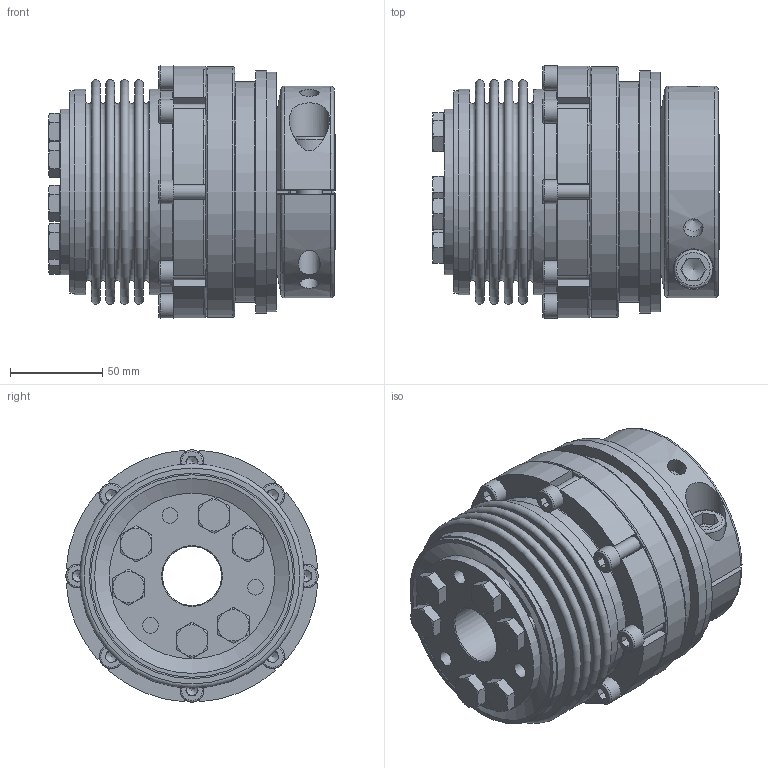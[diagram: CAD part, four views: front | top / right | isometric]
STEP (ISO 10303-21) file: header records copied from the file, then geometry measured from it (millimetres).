
FILE_DESCRIPTION( ( 'Unknown' ), '1' );
FILE_NAME( 'F:/JAKOB-STEP+IGES-Dateien/STEP-Dateien/SKB-KS/SKB-KS 800.stp', 'Unknown', ( 'Unknown' ), ( 'Unknown' ), 'PSStep 10.1', 'Unknown', ' ' );
FILE_SCHEMA( ( 'AUTOMOTIVE_DESIGN { 1 0 10303 214 1 1 1 1 }' ) );
Length unit declared in the file: millimetre
Products named in the file (1): kt100627
Bounding box: 155.9 x 136.98 x 136.98 mm (x, y, z)
Volume: 1146242.1 mm3; surface area: 322227.4 mm2
Topology: 1 solids, 4 shells, 644 faces, 1740 edges, 1112 vertices
Faces by surface type: plane 328, cylinder 130, torus 95, cone 75, sphere 16
Full cylindrical faces by diameter (mm): 1.5 x1, 2.5 x2, 6.8 x9, 8 x8, 8.5 x9, 10 x6, 10.5 x3, 11 x6, 12 x1, 13 x8, 14 x1, 14.5 x1, 15.5 x6, 21 x1, 22 x1, 32 x1, 40 x1, 52 x1, 55.5 x1, 67 x1, 69.8 x1, 70 x2, 78 x1, 80 x1, 80.1 x1, 82.8 x2, 88 x1, 88.976 x1, 90 x4, 97.6 x2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
Entity records: 25864 total; most frequent: CARTESIAN_POINT 6060, DIRECTION 3030, ORIENTED_EDGE 2816, EDGE_CURVE 1408, AXIS2_PLACEMENT_3D 1244, VERTEX_POINT 978, EDGE_LOOP 944, FACE_OUTER_BOUND 774
